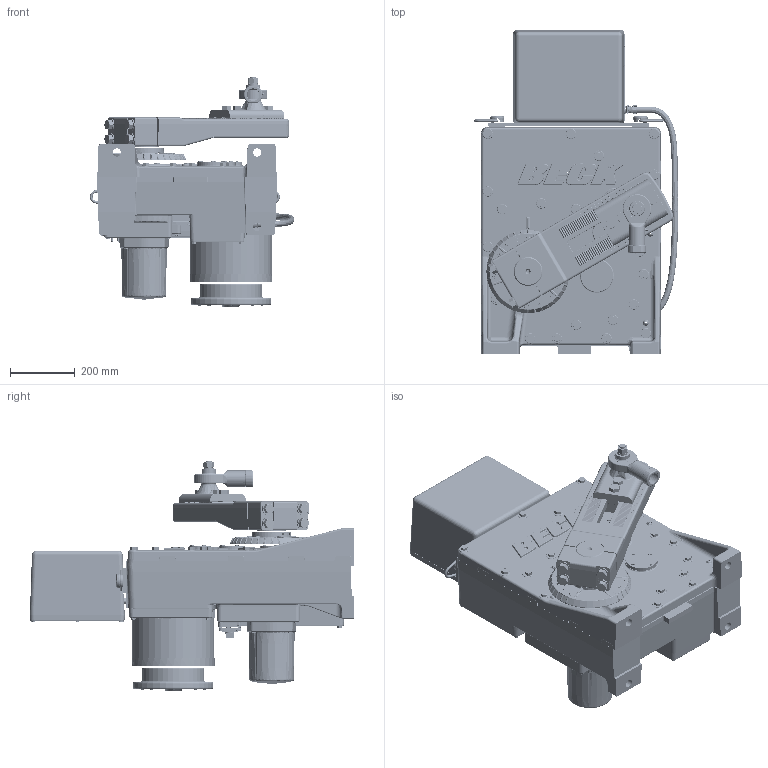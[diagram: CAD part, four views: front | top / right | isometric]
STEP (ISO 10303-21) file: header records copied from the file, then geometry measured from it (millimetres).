
FILE_DESCRIPTION (( 'STEP AP203' ), '1' );
FILE_NAME ('18-2240-05.STEP', '2015-10-19T18:57:27', ( '' ), ( '' ), 'SwSTEP 2.0', 'SolidWorks 2013', '' );
FILE_SCHEMA (( 'CONFIG_CONTROL_DESIGN' ));
Products named in the file (1): 18-2240-05
Bounding box: 628.27 x 998.47 x 710.48 mm (x, y, z)
Surface area: 3441030.6 mm2 (no closed solid volume)
Topology: 0 solids, 432 shells, 3534 faces, 15975 edges, 12425 vertices
Faces by surface type: plane 1284, cylinder 934, bspline 537, cone 391, torus 284, sphere 104
Full cylindrical faces by diameter (mm): 50.8 x1
Entity records: 222730 total; most frequent: CARTESIAN_POINT 105540, DIRECTION 22115, ORIENTED_EDGE 21872, EDGE_CURVE 15911, VERTEX_POINT 12425, AXIS2_PLACEMENT_3D 7918, VECTOR 6279, LINE 6279
